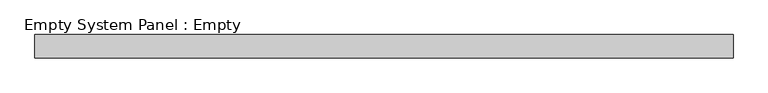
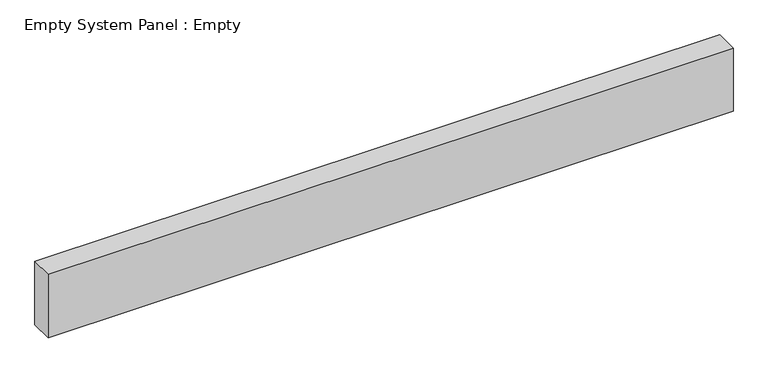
"""IFC4 building model written with IfcOpenShell, lengths in millimetres: plate geometry, Empty System Panel : Empty."""

from ifc_helpers import new_model, si_unit, origin, origin_with_axes, place, context, project, spatial, polyline, outline, extrude, source, transform, mapped, element, save


def empty_system_panel_empty_ea27b686(model_context):
    return source(origin(), model_context, "Body", "SweptSolid", [
        extrude(outline(polyline([(1500.0, -50.0), (-1500.0, -50.0), (-1500.0, 50.0), (1500.0, 50.0), (1500.0, -50.0)])), origin_with_axes(), (0.0, 0.0, 1.0), 293.0),
    ])


if __name__ == "__main__":
    model = new_model("IFC4")
    model_context = context("Model", 3, world=origin())
    ifc_project = project(units=[si_unit("LENGTHUNIT", "METRE", prefix="MILLI")], contexts=[model_context])
    site = spatial("IfcSite", under=ifc_project)
    building = spatial("IfcBuilding", under=site)
    placement = place(None, origin())
    empty_system_panel_empty_shape = empty_system_panel_empty_ea27b686(model_context)
    element("IfcPlate", 1, ObjectType="Empty System Panel : Empty", at=placement, inside=building, context=model_context, shape_type="MappedRepresentation", body=[
        mapped(empty_system_panel_empty_shape, transform((0.0, 0.0, 0.0), x_axis=(1.0, 0.0, 0.0), y_axis=(0.0, 1.0, 0.0), z_axis=(0.0, 0.0, 1.0))),
    ])
    save(model, "model.ifc")
